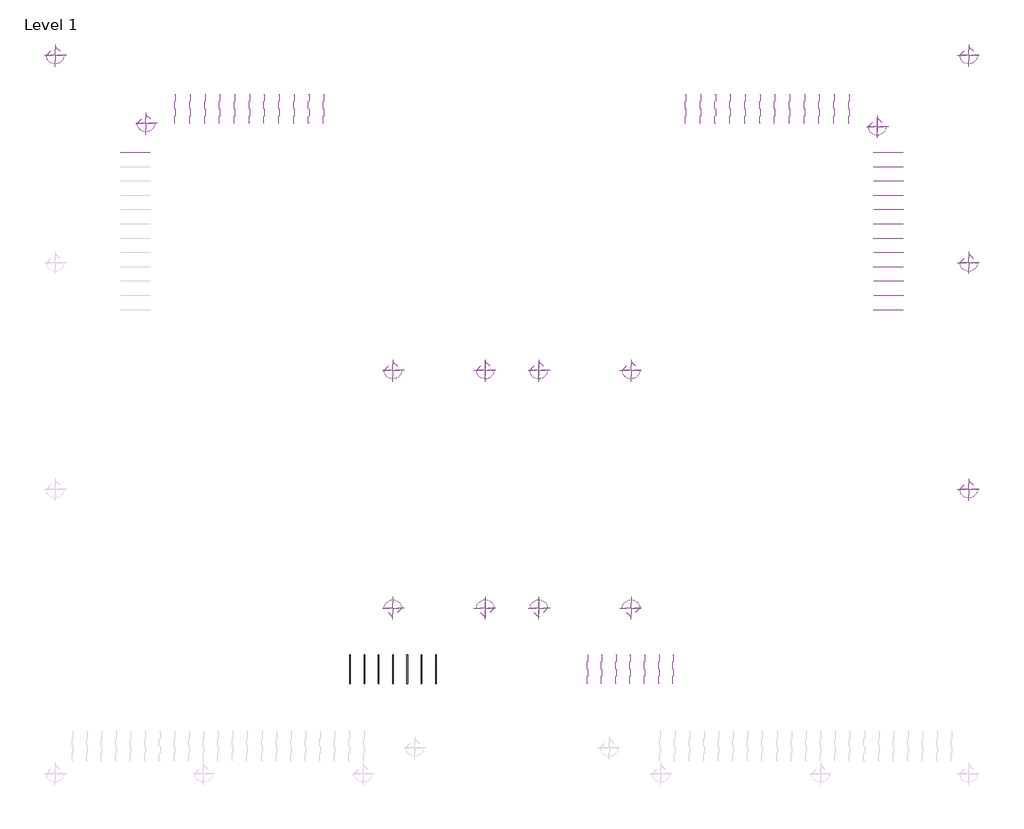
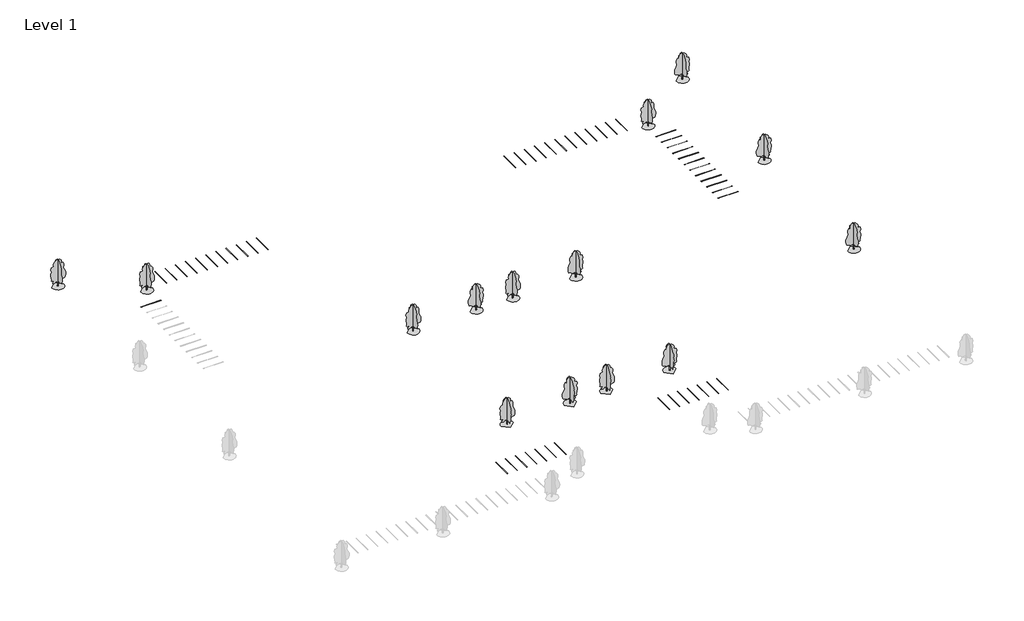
# One storey, part 2 of 2: 50 proxies, 14 geographic elements.
"""IFC4 building model written with IfcOpenShell, lengths in millimetres."""

import ifcopenshell
import ifcopenshell.guid

model = None  # the IFC model being written
_history = None  # IfcOwnerHistory: only IFC2X3 demands one
_inside = {}  # id of a spatial element -> (the spatial element, [elements in it])
_under = {}  # id of a project, library or spatial element -> (it, [spatial elements below it])
_declared = {}  # id of a project -> (the project, [libraries it declares])
_typed = {}  # id of a type object -> (the type object, [elements of that type])
_made_of = {}  # id of a material, layer set ... -> (it, [elements and type objects made of it])


def new_model(schema):
    """Start an empty IFC model of exactly this schema.

    Asked for "IFC4X3", IfcOpenShell would pick the latest addendum, in which some entities
    have other attributes; the version numbers below select the first issue.
    IFC2X3 requires an IfcOwnerHistory on every rooted entity: one is made here for all.
    """
    global model, _history
    if schema == "IFC4X3":
        model = ifcopenshell.file(schema_version=(4, 3, 0, 0))
    else:
        model = ifcopenshell.file(schema=schema)
    _inside.clear()
    _under.clear()
    _declared.clear()
    _typed.clear()
    _made_of.clear()
    _history = None
    if model.schema == "IFC2X3":
        org = make("IfcOrganization", Name="unknown")
        user = make(
            "IfcPersonAndOrganization",
            ThePerson=make("IfcPerson", FamilyName="unknown"),
            TheOrganization=org,
        )
        app = make(
            "IfcApplication",
            ApplicationDeveloper=org,
            Version="unknown",
            ApplicationFullName="unknown",
            ApplicationIdentifier="unknown",
        )
        _history = make(
            "IfcOwnerHistory",
            OwningUser=user,
            OwningApplication=app,
            ChangeAction="ADDED",
            CreationDate=0,
        )
    return model


def make(cls, **values):
    """One entity of the class cls with the attributes given. An attribute that is None is left unset."""
    return model.create_entity(
        cls, **{name: value for name, value in values.items() if value is not None}
    )


def rooted(cls, **values):
    """An entity with a GlobalId (a new one), such as an element, a storey or a relation."""
    return make(cls, GlobalId=ifcopenshell.guid.new(), OwnerHistory=_history, **values)


def si_unit(unit_type, name, prefix=None):
    """IfcSIUnit, for example si_unit("LENGTHUNIT", "METRE", prefix="MILLI")."""
    return make("IfcSIUnit", UnitType=unit_type, Prefix=prefix, Name=name)


def assignment(units):
    """IfcUnitAssignment: the units of a project."""
    return None if units is None else make("IfcUnitAssignment", Units=units)


def point(xyz):
    """IfcCartesianPoint."""
    return None if xyz is None else make("IfcCartesianPoint", Coordinates=xyz)


def direction(xyz):
    """IfcDirection."""
    return None if xyz is None else make("IfcDirection", DirectionRatios=xyz)


def frame(location, z_axis=None, x_axis=None):
    """IfcAxis2Placement3D, a coordinate frame: its origin and axes. An axis left out is left unset."""
    return make(
        "IfcAxis2Placement3D",
        Location=point(location),
        Axis=direction(z_axis),
        RefDirection=direction(x_axis),
    )


def origin():
    """The frame at (0, 0, 0) with its axes left unset."""
    return frame((0.0, 0.0, 0.0))


def origin_with_axes():
    """The frame at (0, 0, 0) with the z axis (0, 0, 1) and the x axis (1, 0, 0) written out."""
    return frame((0.0, 0.0, 0.0), z_axis=(0.0, 0.0, 1.0), x_axis=(1.0, 0.0, 0.0))


def place(relative_to, where):
    """IfcLocalPlacement: puts the frame where relative to a parent placement (None: the world)."""
    return make(
        "IfcLocalPlacement", PlacementRelTo=relative_to, RelativePlacement=where
    )


def context(
    kind, dimensions, precision=None, world=None, true_north=None, identifier=None
):
    """IfcGeometricRepresentationContext, for example the 3D "Model" context."""
    return make(
        "IfcGeometricRepresentationContext",
        ContextIdentifier=identifier,
        ContextType=kind,
        CoordinateSpaceDimension=dimensions,
        Precision=precision,
        WorldCoordinateSystem=world,
        TrueNorth=true_north,
    )


def project(units=None, contexts=None):
    """IfcProject with its units and contexts."""
    return rooted(
        "IfcProject",
        Name="project",
        RepresentationContexts=contexts,
        UnitsInContext=assignment(units),
    )


def spatial(cls, under=None, at=None, **own):
    """A site, building, storey or space (cls), placed at a placement, below another one or the project."""
    s = rooted(cls, ObjectPlacement=at, **own)
    if under is not None:
        _under.setdefault(under.id(), (under, []))[1].append(s)
    return s


def polyline(points):
    """IfcPolyline through the points."""
    return make("IfcPolyline", Points=[point(p) for p in points])


def point_list(points):
    """IfcCartesianPointList2D or 3D."""
    cls = (
        "IfcCartesianPointList2D" if len(points[0]) == 2 else "IfcCartesianPointList3D"
    )
    return make(cls, CoordList=points)


def outline(outer, holes=None, kind="AREA"):
    """IfcArbitraryClosedProfileDef: a profile drawn as a closed curve; with holes, ...WithVoids."""
    if holes is None:
        return make("IfcArbitraryClosedProfileDef", ProfileType=kind, OuterCurve=outer)
    return make(
        "IfcArbitraryProfileDefWithVoids",
        ProfileType=kind,
        OuterCurve=outer,
        InnerCurves=holes,
    )


def extrude(swept, where, along, depth):
    """IfcExtrudedAreaSolid: the profile swept, set in the frame where, extruded along a direction by depth."""
    return make(
        "IfcExtrudedAreaSolid",
        SweptArea=swept,
        Position=where,
        ExtrudedDirection=direction(along),
        Depth=depth,
    )


def triangles(points, corners, closed=None, point_numbers=None):
    """IfcTriangulatedFaceSet: each triangle names its three corners, points numbered from 1."""
    return make(
        "IfcTriangulatedFaceSet",
        Coordinates=point_list(points),
        Closed=closed,
        CoordIndex=corners,
        PnIndex=point_numbers,
    )


def shape(context_of_items, identifier, shape_type, items):
    """IfcShapeRepresentation: the items that make up one representation, for example the "Body"."""
    return make(
        "IfcShapeRepresentation",
        ContextOfItems=context_of_items,
        RepresentationIdentifier=identifier,
        RepresentationType=shape_type,
        Items=items,
    )


def source(mapping_origin, context_of_items, identifier, shape_type, items):
    """IfcRepresentationMap: a shape defined once, which mapped items show again and again."""
    return make(
        "IfcRepresentationMap",
        MappingOrigin=mapping_origin,
        MappedRepresentation=shape(context_of_items, identifier, shape_type, items),
    )


def transform(
    local_origin,
    x_axis=None,
    y_axis=None,
    z_axis=None,
    scale=None,
    scale2=None,
    scale3=None,
    uniform=True,
):
    """IfcCartesianTransformationOperator3D, or its non-uniform kind. x_axis, y_axis, z_axis: its Axis1, 2, 3."""
    if uniform:
        return make(
            "IfcCartesianTransformationOperator3D",
            Axis1=direction(x_axis),
            Axis2=direction(y_axis),
            LocalOrigin=point(local_origin),
            Scale=scale,
            Axis3=direction(z_axis),
        )
    return make(
        "IfcCartesianTransformationOperator3DnonUniform",
        Axis1=direction(x_axis),
        Axis2=direction(y_axis),
        LocalOrigin=point(local_origin),
        Scale=scale,
        Axis3=direction(z_axis),
        Scale2=scale2,
        Scale3=scale3,
    )


def mapped(mapping_source, mapping_target):
    """IfcMappedItem: shows the shape of a source again, moved by a transform."""
    return make(
        "IfcMappedItem", MappingSource=mapping_source, MappingTarget=mapping_target
    )


def made_of(thing, what):
    """Note that an element or type object is made of a material, layer set ...; save() writes the relation."""
    if what is not None:
        _made_of.setdefault(what.id(), (what, []))[1].append(thing)
    return thing


def element(
    cls,
    number,
    at=None,
    inside=None,
    cuts=None,
    type_object=None,
    material=None,
    context=None,
    identifier="Body",
    shape_type=None,
    held_by="IfcProductDefinitionShape",
    body=None,
    shapes=None,
    **own,
):
    """One element of the class cls, such as IfcWall. Its Tag is "e" and its number.

    at: its placement. inside: the storey or other place that contains it. cuts: it is an
    opening in that element (IfcRelVoidsElement). A single representation is given by context,
    identifier, shape_type and body (its items); several are given by shapes. held_by: the class
    of the entity that holds the representations. save() writes the other relations.
    """
    e = rooted(cls, Tag="e%d" % number, ObjectPlacement=at, **own)
    if body is not None:
        shapes = [shape(context, identifier, shape_type, body)]
    if shapes is not None:
        e.Representation = make(held_by, Representations=shapes)
    if inside is not None:
        _inside.setdefault(inside.id(), (inside, []))[1].append(e)
    if cuts is not None:
        rooted(
            "IfcRelVoidsElement", RelatingBuildingElement=cuts, RelatedOpeningElement=e
        )
    if type_object is not None:
        _typed.setdefault(type_object.id(), (type_object, []))[1].append(e)
    return made_of(e, material)


def aggregate(whole, parts):
    """IfcRelAggregates: a whole, such as a stair, and the parts it consists of."""
    return rooted("IfcRelAggregates", RelatingObject=whole, RelatedObjects=parts)


def save(model, path):
    """Write the relations noted so far, then the file.

    IfcRelAggregates (storeys below a building ...), IfcRelContainedInSpatialStructure (elements
    in a storey), IfcRelDefinesByType, IfcRelAssociatesMaterial and IfcRelDeclares: one each for
    every whole, place, type object, material and project.
    """
    for whole, parts in _under.values():
        aggregate(whole, parts)
    for where, things in _inside.values():
        rooted(
            "IfcRelContainedInSpatialStructure",
            RelatedElements=things,
            RelatingStructure=where,
        )
    for kind, things in _typed.values():
        rooted("IfcRelDefinesByType", RelatedObjects=things, RelatingType=kind)
    for what, things in _made_of.values():
        rooted("IfcRelAssociatesMaterial", RelatedObjects=things, RelatingMaterial=what)
    for by, libraries in _declared.values():
        rooted("IfcRelDeclares", RelatingContext=by, RelatedDefinitions=libraries)
    model.write(path)


def parking_space_9_x_18_90_deg_9fe051ab(model_context):
    return source(origin(), model_context, "Body", "SweptSolid", [
        extrude(outline(polyline([(-50.8, 0.0), (-50.8, 5486.4), (50.8, 5486.4), (50.8, 0.0), (-50.8, 0.0)])), origin_with_axes(), (0.0, 0.0, 1.0), 3.175),
    ])


def parking_space_9_x_18_90_deg_b8b21359(model_context):
    return source(origin(), model_context, "Body", "SweptSolid", [
        extrude(outline(polyline([(-50.8, 0.0), (50.8, 0.0), (50.8, -5486.4), (-50.8, -5486.4), (-50.8, 0.0)])), origin_with_axes(), (0.0, 0.0, 1.0), 3.175),
    ])


def rpc_tree_deciduous_red_ash_25_14781bec(model_context):
    return source(origin(), model_context, "Body", "Tessellation", [
        triangles([(-1644.9525009, 0.0, 6.19e-05), (-1601.4651844, -376.9143482, 6.19e-05), (-1477.6144592, -723.0498339, 6.19e-05), (-1283.3164352, -1028.4894024, 6.19e-05), (-1028.4894751, -1283.3165806, 6.19e-05), (-723.0496885, -1477.6140232, 6.19e-05), (-376.9141665, -1601.4651844, 6.19e-05), (7.19e-05, -1644.9525009, 6.19e-05), (376.9143846, -1601.4651844, 6.19e-05), (723.0499065, -1477.6143139, 6.19e-05), (1028.4894751, -1283.3164352, 6.19e-05), (1283.3168713, -1028.4894751, 6.19e-05), (1477.6141685, -723.0496159, 6.19e-05), (1601.4651844, -376.9140939, 6.19e-05), (1644.9525009, 0.0001438, 6.19e-05), (-0.0002157, 1644.9525009, 6.19e-05), (-1.07e-05, -102.8462569, 0.0), (2.5e-05, -101.2467179, 1194.554048), (3.23e-05, -129.8819613, 1537.8029366), (7e-07, -438.8253948, 1558.1655018), (-5.78e-05, -976.3912743, 1478.3068588), (-0.0001405, -1903.692667, 1948.6771305), (-0.0001413, -2011.2060173, 2298.095192), (-0.0001361, -2145.5975235, 2943.1744217), (-0.0001119, -2105.2803623, 3615.1319527), (-5.81e-05, -1740.3819958, 4141.0172951), (-5.5e-06, -1527.3986298, 5160.6350006), (-3.5e-06, -1715.5451397, 5886.3488434), (4.79e-05, -1406.4449661, 6531.4286545), (0.0001569, -626.9743755, 7458.7301926), (0.0001985, -273.2007115, 7618.1942963), (0.0002662, 394.4016166, 7552.8046829), (0.0003121, 1026.0418774, 6880.8468613), (0.0003149, 1214.190204, 6316.4022446), (0.0003323, 1496.411277, 5913.2274353), (0.0003598, 1805.5131947, 5751.9582092), (0.0003531, 1818.9521999, 5483.1746155), (0.0003523, 1899.587249, 5174.0742966), (0.0003275, 1765.1957428, 4811.2170845), (0.0003297, 1886.1480984, 4461.7991684), (0.0003279, 2007.1004539, 3977.9897461), (0.0003211, 1980.222298, 3843.5979492), (0.0002877, 1751.7567375, 3521.0580437), (0.0002729, 1737.3115437, 3077.5662186), (0.0002632, 1724.8782909, 2795.3439102), (0.0002542, 1738.3174416, 2445.9262848), (0.0002412, 1751.7568829, 1962.1167171), (0.0002172, 1563.6084835, 1814.2857697), (0.0001807, 1214.1907127, 1814.2857697), (0.0001827, 1375.4605202, 1317.0371967), (0.0001715, 1348.4951603, 1034.8845062), (0.0001516, 1103.0310734, 1227.8363914), (9.86e-05, 629.4626684, 1106.7075932), (9.8e-05, 551.7118183, 1357.0609165), (6.29e-05, 215.9127657, 1354.0025276), (5.03e-05, 130.8012366, 1228.3346169), (3.27e-05, 79.5493323, 818.2831198), (1.17e-05, 112.1660096, 1.28e-05), (-110.870867, 4.8e-06, 4.46e-05), (-66.7114758, -9.64e-05, 833.5016676), (-129.3072962, -0.000136, 1187.9435503), (-290.7878647, -0.00015, 1365.31768), (-483.6364677, -0.0001408, 1358.6964272), (-796.2678211, -0.000103, 1155.7673166), (-1427.9080456, -6.9e-05, 1102.0108595), (-1419.1706429, -7.35e-05, 1136.7646975), (-1409.8454853, -7.82e-05, 1172.6938271), (-1399.3449635, -8.32e-05, 1210.9736853), (-1387.0813225, -8.87e-05, 1252.7803631), (-1372.4668076, -9.49e-05, 1299.2876987), (-1354.9136639, -0.0001019, 1351.6733093), (-1333.8341366, -0.0001099, 1411.1111057), (-1307.2693336, -0.0001176, 1466.2392815), (-1274.3570984, -0.0001239, 1506.556588), (-1236.1555058, -0.0001289, 1534.5316246), (-1193.7220493, -0.0001329, 1552.6338627), (-1148.1152401, -0.0001362, 1563.3300121), (-1100.3923536, -0.000139, 1569.0895443), (-1051.6116829, -0.0001415, 1572.3809132), (-1199.4421944, -0.0001703, 1868.0423721), (-1629.4953049, -0.0001418, 1787.4073231), (-1871.3997253, -0.0001601, 2029.3124702), (-1723.5690685, -0.0001874, 2204.0214283), (-1763.886375, -0.0002433, 2687.8309959), (-1911.7170319, -0.0003442, 3588.2539421), (-1898.4807758, -0.0003892, 3961.1654823), (-1719.9175472, -0.0004688, 4563.3255295), (-1952.0346291, -0.0005347, 5200.9523071), (-1777.3253803, -0.000616, 5819.1535263), (-1414.4687496, -0.0006447, 5926.6667313), (-1138.413216, -0.0006626, 5975.3625961), (-1239.7599369, -0.0007228, 6517.9893585), (-930.6591093, -0.000802, 7068.9952606), (-352.7753057, -0.0008898, 7593.1219894), (117.5946844, -0.0009135, 7620.0), (534.2087442, -0.0009301, 7606.5601227), (883.626733, -0.0008893, 7136.1905777), (947.8720848, -0.00081, 6447.5180786), (938.6469212, -0.0007795, 6194.9695404), (1286.8011063, -0.0008333, 6517.9893585), (1622.7800171, -0.0007823, 5966.9840378), (1609.3410118, -0.0007196, 5446.5094116), (1549.4574577, -0.00064, 4800.6520317), (1743.7323727, -0.0005809, 4233.3331718), (2131.7640656, -0.0005067, 3469.1978371), (2144.1354034, -0.0004386, 2892.8094727), (2066.2719875, -0.0003531, 2204.021283), (1945.319632, -0.0003141, 1921.7989746), (1703.4147755, -0.0003004, 1894.9206734), (1233.0446491, -0.0002542, 1679.8941181), (816.4305439, -0.0002007, 1384.2328045), (257.4765441, -0.0002049, 1624.5688614), (93.0508701, -0.0001766, 1447.6347485), (104.1552431, -4.6e-06, 3.52e-05)], [[15, 16, 1], [14, 15, 1], [14, 1, 2], [13, 14, 2], [13, 2, 3], [13, 3, 4], [12, 13, 4], [11, 12, 4], [11, 4, 5], [11, 5, 6], [11, 6, 7], [11, 7, 8], [11, 8, 9], [11, 9, 10], [50, 51, 52], [57, 58, 17], [57, 17, 18], [56, 57, 18], [56, 18, 19], [55, 56, 19], [49, 50, 52], [52, 53, 54], [49, 52, 54], [35, 36, 37], [46, 47, 48], [46, 48, 49], [21, 22, 23], [20, 21, 23], [20, 23, 24], [20, 24, 25], [20, 25, 26], [19, 20, 26], [19, 26, 27], [45, 46, 49], [31, 32, 33], [30, 31, 33], [29, 30, 33], [29, 33, 34], [28, 29, 34], [27, 28, 34], [19, 27, 34], [19, 34, 35], [19, 35, 37], [19, 37, 38], [19, 38, 39], [19, 39, 40], [19, 40, 41], [19, 41, 42], [19, 42, 43], [19, 43, 44], [19, 44, 45], [19, 45, 49], [19, 49, 54], [55, 19, 54], [64, 65, 66], [64, 66, 67], [64, 67, 68], [99, 100, 101], [64, 68, 69], [64, 69, 70], [64, 70, 71], [114, 59, 60], [113, 114, 60], [113, 60, 61], [113, 61, 62], [64, 71, 72], [64, 72, 73], [64, 73, 74], [64, 74, 75], [64, 75, 76], [64, 76, 77], [64, 77, 78], [64, 78, 79], [63, 64, 79], [81, 82, 83], [80, 81, 83], [99, 101, 102], [107, 108, 109], [110, 111, 112], [88, 89, 90], [87, 88, 90], [87, 90, 91], [80, 83, 84], [95, 96, 97], [95, 97, 98], [94, 95, 98], [93, 94, 98], [92, 93, 98], [91, 92, 98], [91, 98, 99], [87, 91, 99], [87, 99, 102], [87, 102, 103], [87, 103, 104], [86, 87, 104], [85, 86, 104], [84, 85, 104], [80, 84, 104], [80, 104, 105], [80, 105, 106], [80, 106, 107], [80, 107, 109], [80, 109, 110], [80, 110, 112], [79, 80, 112], [63, 79, 112], [62, 63, 112], [113, 62, 112]], closed=False),
    ])


def rpc_tree_deciduous_red_ash_25_de8497d4(model_context):
    return source(origin(), model_context, "Body", "Tessellation", [
        triangles([(-1644.9525009, 0.0, 6.19e-05), (-1601.4651844, 376.9143482, 6.19e-05), (-1477.6144592, 723.0498339, 6.19e-05), (-1283.3164352, 1028.4894024, 6.19e-05), (-1028.4894751, 1283.3165806, 6.19e-05), (-723.0496885, 1477.6140232, 6.19e-05), (-376.9141665, 1601.4651844, 6.19e-05), (7.19e-05, 1644.9525009, 6.19e-05), (376.9143846, 1601.4651844, 6.19e-05), (723.0499065, 1477.6143139, 6.19e-05), (1028.4894751, 1283.3164352, 6.19e-05), (1283.3168713, 1028.4894751, 6.19e-05), (1477.6141685, 723.0496159, 6.19e-05), (1601.4651844, 376.9140939, 6.19e-05), (1644.9525009, -0.0001438, 6.19e-05), (-0.0002157, -1644.9525009, 6.19e-05), (-1.07e-05, 102.8462569, 0.0), (2.5e-05, 101.2467179, 1194.554048), (3.23e-05, 129.8819613, 1537.8029366), (7e-07, 438.8253948, 1558.1655018), (-5.78e-05, 976.3912743, 1478.3068588), (-0.0001405, 1903.692667, 1948.6771305), (-0.0001413, 2011.2060173, 2298.095192), (-0.0001361, 2145.5975235, 2943.1744217), (-0.0001119, 2105.2803623, 3615.1319527), (-5.81e-05, 1740.3819958, 4141.0172951), (-5.5e-06, 1527.3986298, 5160.6350006), (-3.5e-06, 1715.5451397, 5886.3488434), (4.79e-05, 1406.4449661, 6531.4286545), (0.0001569, 626.9743755, 7458.7301926), (0.0001985, 273.2007115, 7618.1942963), (0.0002662, -394.4016166, 7552.8046829), (0.0003121, -1026.0418774, 6880.8468613), (0.0003149, -1214.190204, 6316.4022446), (0.0003323, -1496.411277, 5913.2274353), (0.0003598, -1805.5131947, 5751.9582092), (0.0003531, -1818.9521999, 5483.1746155), (0.0003523, -1899.587249, 5174.0742966), (0.0003275, -1765.1957428, 4811.2170845), (0.0003297, -1886.1480984, 4461.7991684), (0.0003279, -2007.1004539, 3977.9897461), (0.0003211, -1980.222298, 3843.5979492), (0.0002877, -1751.7567375, 3521.0580437), (0.0002729, -1737.3115437, 3077.5662186), (0.0002632, -1724.8782909, 2795.3439102), (0.0002542, -1738.3174416, 2445.9262848), (0.0002412, -1751.7568829, 1962.1167171), (0.0002172, -1563.6084835, 1814.2857697), (0.0001807, -1214.1907127, 1814.2857697), (0.0001827, -1375.4605202, 1317.0371967), (0.0001715, -1348.4951603, 1034.8845062), (0.0001516, -1103.0310734, 1227.8363914), (9.86e-05, -629.4626684, 1106.7075932), (9.8e-05, -551.7118183, 1357.0609165), (6.29e-05, -215.9127657, 1354.0025276), (5.03e-05, -130.8012366, 1228.3346169), (3.27e-05, -79.5493323, 818.2831198), (1.17e-05, -112.1660096, 1.28e-05), (-110.870867, -4.8e-06, 4.46e-05), (-66.7114758, 9.64e-05, 833.5016676), (-129.3072962, 0.000136, 1187.9435503), (-290.7878647, 0.00015, 1365.31768), (-483.6364677, 0.0001408, 1358.6964272), (-796.2678211, 0.000103, 1155.7673166), (-1427.9080456, 6.9e-05, 1102.0108595), (-1419.1706429, 7.35e-05, 1136.7646975), (-1409.8454853, 7.82e-05, 1172.6938271), (-1399.3449635, 8.32e-05, 1210.9736853), (-1387.0813225, 8.87e-05, 1252.7803631), (-1372.4668076, 9.49e-05, 1299.2876987), (-1354.9136639, 0.0001019, 1351.6733093), (-1333.8341366, 0.0001099, 1411.1111057), (-1307.2693336, 0.0001176, 1466.2392815), (-1274.3570984, 0.0001239, 1506.556588), (-1236.1555058, 0.0001289, 1534.5316246), (-1193.7220493, 0.0001329, 1552.6338627), (-1148.1152401, 0.0001362, 1563.3300121), (-1100.3923536, 0.000139, 1569.0895443), (-1051.6116829, 0.0001415, 1572.3809132), (-1199.4421944, 0.0001703, 1868.0423721), (-1629.4953049, 0.0001418, 1787.4073231), (-1871.3997253, 0.0001601, 2029.3124702), (-1723.5690685, 0.0001874, 2204.0214283), (-1763.886375, 0.0002433, 2687.8309959), (-1911.7170319, 0.0003442, 3588.2539421), (-1898.4807758, 0.0003892, 3961.1654823), (-1719.9175472, 0.0004688, 4563.3255295), (-1952.0346291, 0.0005347, 5200.9523071), (-1777.3253803, 0.000616, 5819.1535263), (-1414.4687496, 0.0006447, 5926.6667313), (-1138.413216, 0.0006626, 5975.3625961), (-1239.7599369, 0.0007228, 6517.9893585), (-930.6591093, 0.000802, 7068.9952606), (-352.7753057, 0.0008898, 7593.1219894), (117.5946844, 0.0009135, 7620.0), (534.2087442, 0.0009301, 7606.5601227), (883.626733, 0.0008893, 7136.1905777), (947.8720848, 0.00081, 6447.5180786), (938.6469212, 0.0007795, 6194.9695404), (1286.8011063, 0.0008333, 6517.9893585), (1622.7800171, 0.0007823, 5966.9840378), (1609.3410118, 0.0007196, 5446.5094116), (1549.4574577, 0.00064, 4800.6520317), (1743.7323727, 0.0005809, 4233.3331718), (2131.7640656, 0.0005067, 3469.1978371), (2144.1354034, 0.0004386, 2892.8094727), (2066.2719875, 0.0003531, 2204.021283), (1945.319632, 0.0003141, 1921.7989746), (1703.4147755, 0.0003004, 1894.9206734), (1233.0446491, 0.0002542, 1679.8941181), (816.4305439, 0.0002007, 1384.2328045), (257.4765441, 0.0002049, 1624.5688614), (93.0508701, 0.0001766, 1447.6347485), (104.1552431, 4.6e-06, 3.52e-05)], [[16, 15, 1], [15, 14, 1], [1, 14, 2], [14, 13, 2], [2, 13, 3], [3, 13, 4], [13, 12, 4], [12, 11, 4], [4, 11, 5], [5, 11, 6], [6, 11, 7], [7, 11, 8], [8, 11, 9], [9, 11, 10], [51, 50, 52], [58, 57, 17], [17, 57, 18], [57, 56, 18], [18, 56, 19], [56, 55, 19], [50, 49, 52], [53, 52, 54], [52, 49, 54], [36, 35, 37], [47, 46, 48], [48, 46, 49], [22, 21, 23], [21, 20, 23], [23, 20, 24], [24, 20, 25], [25, 20, 26], [20, 19, 26], [26, 19, 27], [46, 45, 49], [32, 31, 33], [31, 30, 33], [30, 29, 33], [33, 29, 34], [29, 28, 34], [28, 27, 34], [27, 19, 34], [34, 19, 35], [35, 19, 37], [37, 19, 38], [38, 19, 39], [39, 19, 40], [40, 19, 41], [41, 19, 42], [42, 19, 43], [43, 19, 44], [44, 19, 45], [45, 19, 49], [49, 19, 54], [19, 55, 54], [65, 64, 66], [66, 64, 67], [67, 64, 68], [100, 99, 101], [68, 64, 69], [69, 64, 70], [70, 64, 71], [59, 114, 60], [114, 113, 60], [60, 113, 61], [61, 113, 62], [71, 64, 72], [72, 64, 73], [73, 64, 74], [74, 64, 75], [75, 64, 76], [76, 64, 77], [77, 64, 78], [78, 64, 79], [64, 63, 79], [82, 81, 83], [81, 80, 83], [101, 99, 102], [108, 107, 109], [111, 110, 112], [89, 88, 90], [88, 87, 90], [90, 87, 91], [83, 80, 84], [96, 95, 97], [97, 95, 98], [95, 94, 98], [94, 93, 98], [93, 92, 98], [92, 91, 98], [98, 91, 99], [91, 87, 99], [99, 87, 102], [102, 87, 103], [103, 87, 104], [87, 86, 104], [86, 85, 104], [85, 84, 104], [84, 80, 104], [104, 80, 105], [105, 80, 106], [106, 80, 107], [107, 80, 109], [109, 80, 110], [110, 80, 112], [80, 79, 112], [79, 63, 112], [63, 62, 112], [62, 113, 112]], closed=False),
    ])


model = new_model("IFC4")

# Units and contexts
model_context = context("Model", 3, world=origin())
ifc_project = project(units=[si_unit("LENGTHUNIT", "METRE", prefix="MILLI")], contexts=[model_context])

# Site, building, storey
site = spatial("IfcSite", under=ifc_project)
building = spatial("IfcBuilding", under=site)
storey = spatial("IfcBuildingStorey", under=building, Name="Level 1", Elevation=0.0)

# Proxies
placement = place(None, origin())
parking_space_9_x_18_90_deg_shape = parking_space_9_x_18_90_deg_9fe051ab(model_context)
element("IfcBuildingElementProxy", 1, Name="Parking Space : 9' x 18' - 90 deg", ObjectType="Parking Space : 9' x 18' - 90 deg", at=placement, inside=storey, context=model_context, shape_type="MappedRepresentation", body=[
    mapped(parking_space_9_x_18_90_deg_shape, transform((-26963.9619016, -16596.3218628, 3124.2), x_axis=(-1.0, 0.0, 0.0), y_axis=(0.0, -1.0, 0.0), z_axis=(0.0, 0.0, 1.0))),
])
element("IfcBuildingElementProxy", 2, Name="Parking Space : 9' x 18' - 90 deg", ObjectType="Parking Space : 9' x 18' - 90 deg", at=placement, inside=storey, context=model_context, shape_type="MappedRepresentation", body=[
    mapped(parking_space_9_x_18_90_deg_shape, transform((-29757.9619016, -16596.3218628, 3124.2), x_axis=(-1.0, 0.0, 0.0), y_axis=(0.0, -1.0, 0.0), z_axis=(0.0, 0.0, 1.0))),
])
element("IfcBuildingElementProxy", 3, Name="Parking Space : 9' x 18' - 90 deg", ObjectType="Parking Space : 9' x 18' - 90 deg", at=placement, inside=storey, context=model_context, shape_type="MappedRepresentation", body=[
    mapped(parking_space_9_x_18_90_deg_shape, transform((-32551.9619016, -16596.3218628, 3124.2), x_axis=(-1.0, 0.0, 0.0), y_axis=(0.0, -1.0, 0.0), z_axis=(0.0, 0.0, 1.0))),
])
element("IfcBuildingElementProxy", 4, Name="Parking Space : 9' x 18' - 90 deg", ObjectType="Parking Space : 9' x 18' - 90 deg", at=placement, inside=storey, context=model_context, shape_type="MappedRepresentation", body=[
    mapped(parking_space_9_x_18_90_deg_shape, transform((-35345.9619016, -16596.3218628, 3124.2), x_axis=(-1.0, 0.0, 0.0), y_axis=(0.0, -1.0, 0.0), z_axis=(0.0, 0.0, 1.0))),
])
element("IfcBuildingElementProxy", 5, Name="Parking Space : 9' x 18' - 90 deg", ObjectType="Parking Space : 9' x 18' - 90 deg", at=placement, inside=storey, context=model_context, shape_type="MappedRepresentation", body=[
    mapped(parking_space_9_x_18_90_deg_shape, transform((-38139.9619016, -16596.3218628, 3124.2), x_axis=(-1.0, 0.0, 0.0), y_axis=(0.0, -1.0, 0.0), z_axis=(0.0, 0.0, 1.0))),
])
element("IfcBuildingElementProxy", 6, Name="Parking Space : 9' x 18' - 90 deg", ObjectType="Parking Space : 9' x 18' - 90 deg", at=placement, inside=storey, context=model_context, shape_type="MappedRepresentation", body=[
    mapped(parking_space_9_x_18_90_deg_shape, transform((-40933.9619016, -16596.3218628, 3124.2), x_axis=(-1.0, 0.0, 0.0), y_axis=(0.0, -1.0, 0.0), z_axis=(0.0, 0.0, 1.0))),
])
element("IfcBuildingElementProxy", 7, Name="Parking Space : 9' x 18' - 90 deg", ObjectType="Parking Space : 9' x 18' - 90 deg", at=placement, inside=storey, context=model_context, shape_type="MappedRepresentation", body=[
    mapped(parking_space_9_x_18_90_deg_shape, transform((-43727.9619016, -16596.3218628, 3124.2), x_axis=(-1.0, 0.0, 0.0), y_axis=(0.0, -1.0, 0.0), z_axis=(0.0, 0.0, 1.0))),
])
element("IfcBuildingElementProxy", 8, Name="Parking Space : 9' x 18' - 90 deg", ObjectType="Parking Space : 9' x 18' - 90 deg", at=placement, inside=storey, context=model_context, shape_type="MappedRepresentation", body=[
    mapped(parking_space_9_x_18_90_deg_shape, transform((-46521.9619016, -16596.3218628, 3124.2), x_axis=(-1.0, 0.0, 0.0), y_axis=(0.0, -1.0, 0.0), z_axis=(0.0, 0.0, 1.0))),
])
element("IfcBuildingElementProxy", 9, Name="Parking Space : 9' x 18' - 90 deg", ObjectType="Parking Space : 9' x 18' - 90 deg", at=placement, inside=storey, context=model_context, shape_type="MappedRepresentation", body=[
    mapped(parking_space_9_x_18_90_deg_shape, transform((-49315.9619016, -16596.3218628, 3124.2), x_axis=(-1.0, 0.0, 0.0), y_axis=(0.0, -1.0, 0.0), z_axis=(0.0, 0.0, 1.0))),
])
element("IfcBuildingElementProxy", 10, Name="Parking Space : 9' x 18' - 90 deg", ObjectType="Parking Space : 9' x 18' - 90 deg", at=placement, inside=storey, context=model_context, shape_type="MappedRepresentation", body=[
    mapped(parking_space_9_x_18_90_deg_shape, transform((-52109.9619016, -16596.3218628, 3124.2), x_axis=(-1.0, 0.0, 0.0), y_axis=(0.0, -1.0, 0.0), z_axis=(0.0, 0.0, 1.0))),
])
element("IfcBuildingElementProxy", 11, Name="Parking Space : 9' x 18' - 90 deg", ObjectType="Parking Space : 9' x 18' - 90 deg", at=placement, inside=storey, context=model_context, shape_type="MappedRepresentation", body=[
    mapped(parking_space_9_x_18_90_deg_shape, transform((-54903.9619016, -16596.3218628, 3124.2), x_axis=(-1.0, 0.0, 0.0), y_axis=(0.0, -1.0, 0.0), z_axis=(0.0, 0.0, 1.0))),
])
element("IfcBuildingElementProxy", 12, Name="Parking Space : 9' x 18' - 90 deg", ObjectType="Parking Space : 9' x 18' - 90 deg", at=placement, inside=storey, context=model_context, shape_type="MappedRepresentation", body=[
    mapped(parking_space_9_x_18_90_deg_shape, transform((-57697.9619016, -16596.3218628, 3124.2), x_axis=(-1.0, 0.0, 0.0), y_axis=(0.0, -1.0, 0.0), z_axis=(0.0, 0.0, 1.0))),
])
element("IfcBuildingElementProxy", 13, Name="Parking Space : 9' x 18' - 90 deg", ObjectType="Parking Space : 9' x 18' - 90 deg", at=placement, inside=storey, context=model_context, shape_type="MappedRepresentation", body=[
    mapped(parking_space_9_x_18_90_deg_shape, transform((-60034.7619016, -122057.1265137, 3124.2), x_axis=(-1.0, 0.0, 0.0), y_axis=(0.0, -1.0, 0.0), z_axis=(0.0, 0.0, 1.0))),
])
element("IfcBuildingElementProxy", 14, Name="Parking Space : 9' x 18' - 90 deg", ObjectType="Parking Space : 9' x 18' - 90 deg", at=placement, inside=storey, context=model_context, shape_type="MappedRepresentation", body=[
    mapped(parking_space_9_x_18_90_deg_shape, transform((-62727.1619016, -122057.1265137, 3124.2), x_axis=(-1.0, 0.0, 0.0), y_axis=(0.0, -1.0, 0.0), z_axis=(0.0, 0.0, 1.0))),
])
element("IfcBuildingElementProxy", 15, Name="Parking Space : 9' x 18' - 90 deg", ObjectType="Parking Space : 9' x 18' - 90 deg", at=placement, inside=storey, context=model_context, shape_type="MappedRepresentation", body=[
    mapped(parking_space_9_x_18_90_deg_shape, transform((-65419.5619016, -122057.1265137, 3124.2), x_axis=(-1.0, 0.0, 0.0), y_axis=(0.0, -1.0, 0.0), z_axis=(0.0, 0.0, 1.0))),
])
element("IfcBuildingElementProxy", 16, Name="Parking Space : 9' x 18' - 90 deg", ObjectType="Parking Space : 9' x 18' - 90 deg", at=placement, inside=storey, context=model_context, shape_type="MappedRepresentation", body=[
    mapped(parking_space_9_x_18_90_deg_shape, transform((-68111.9619016, -122057.1265137, 3124.2), x_axis=(-1.0, 0.0, 0.0), y_axis=(0.0, -1.0, 0.0), z_axis=(0.0, 0.0, 1.0))),
])
element("IfcBuildingElementProxy", 17, Name="Parking Space : 9' x 18' - 90 deg", ObjectType="Parking Space : 9' x 18' - 90 deg", at=placement, inside=storey, context=model_context, shape_type="MappedRepresentation", body=[
    mapped(parking_space_9_x_18_90_deg_shape, transform((-70804.3619016, -122057.1265137, 3124.2), x_axis=(-1.0, 0.0, 0.0), y_axis=(0.0, -1.0, 0.0), z_axis=(0.0, 0.0, 1.0))),
])
element("IfcBuildingElementProxy", 18, Name="Parking Space : 9' x 18' - 90 deg", ObjectType="Parking Space : 9' x 18' - 90 deg", at=placement, inside=storey, context=model_context, shape_type="MappedRepresentation", body=[
    mapped(parking_space_9_x_18_90_deg_shape, transform((-73496.7619016, -122057.1265137, 3124.2), x_axis=(-1.0, 0.0, 0.0), y_axis=(0.0, -1.0, 0.0), z_axis=(0.0, 0.0, 1.0))),
])
element("IfcBuildingElementProxy", 19, Name="Parking Space : 9' x 18' - 90 deg", ObjectType="Parking Space : 9' x 18' - 90 deg", at=placement, inside=storey, context=model_context, shape_type="MappedRepresentation", body=[
    mapped(parking_space_9_x_18_90_deg_shape, transform((-76189.1619016, -122057.1265137, 3124.2), x_axis=(-1.0, 0.0, 0.0), y_axis=(0.0, -1.0, 0.0), z_axis=(0.0, 0.0, 1.0))),
])
element("IfcBuildingElementProxy", 20, Name="Parking Space : 9' x 18' - 90 deg", ObjectType="Parking Space : 9' x 18' - 90 deg", at=placement, inside=storey, context=model_context, shape_type="MappedRepresentation", body=[
    mapped(parking_space_9_x_18_90_deg_shape, transform((-163971.5541504, -27569.1218628, 3124.2), x_axis=(0.0, -1.0, 0.0), y_axis=(1.0, 0.0, 0.0), z_axis=(0.0, 0.0, 1.0))),
])
parking_space_9_x_18_90_deg_2_shape = parking_space_9_x_18_90_deg_b8b21359(model_context)
element("IfcBuildingElementProxy", 21, Name="Parking Space : 9' x 18' - 90 deg", ObjectType="Parking Space : 9' x 18' - 90 deg", at=placement, inside=storey, context=model_context, shape_type="MappedRepresentation", body=[
    mapped(parking_space_9_x_18_90_deg_2_shape, transform((-153760.7541504, -16596.3218628, 3200.4), x_axis=(1.0, 0.0, 0.0), y_axis=(0.0, 1.0, 0.0), z_axis=(0.0, 0.0, 1.0))),
])
element("IfcBuildingElementProxy", 22, Name="Parking Space : 9' x 18' - 90 deg", ObjectType="Parking Space : 9' x 18' - 90 deg", at=placement, inside=storey, context=model_context, shape_type="MappedRepresentation", body=[
    mapped(parking_space_9_x_18_90_deg_2_shape, transform((-150966.7541504, -16596.3218628, 3124.2), x_axis=(1.0, 0.0, 0.0), y_axis=(0.0, 1.0, 0.0), z_axis=(0.0, 0.0, 1.0))),
])
element("IfcBuildingElementProxy", 23, Name="Parking Space : 9' x 18' - 90 deg", ObjectType="Parking Space : 9' x 18' - 90 deg", at=placement, inside=storey, context=model_context, shape_type="MappedRepresentation", body=[
    mapped(parking_space_9_x_18_90_deg_2_shape, transform((-148172.7541504, -16596.3218628, 3124.2), x_axis=(1.0, 0.0, 0.0), y_axis=(0.0, 1.0, 0.0), z_axis=(0.0, 0.0, 1.0))),
])
element("IfcBuildingElementProxy", 24, Name="Parking Space : 9' x 18' - 90 deg", ObjectType="Parking Space : 9' x 18' - 90 deg", at=placement, inside=storey, context=model_context, shape_type="MappedRepresentation", body=[
    mapped(parking_space_9_x_18_90_deg_2_shape, transform((-145378.7541504, -16596.3218628, 3124.2), x_axis=(1.0, 0.0, 0.0), y_axis=(0.0, 1.0, 0.0), z_axis=(0.0, 0.0, 1.0))),
])
element("IfcBuildingElementProxy", 25, Name="Parking Space : 9' x 18' - 90 deg", ObjectType="Parking Space : 9' x 18' - 90 deg", at=placement, inside=storey, context=model_context, shape_type="MappedRepresentation", body=[
    mapped(parking_space_9_x_18_90_deg_2_shape, transform((-142584.7541504, -16596.3218628, 3124.2), x_axis=(1.0, 0.0, 0.0), y_axis=(0.0, 1.0, 0.0), z_axis=(0.0, 0.0, 1.0))),
])
element("IfcBuildingElementProxy", 26, Name="Parking Space : 9' x 18' - 90 deg", ObjectType="Parking Space : 9' x 18' - 90 deg", at=placement, inside=storey, context=model_context, shape_type="MappedRepresentation", body=[
    mapped(parking_space_9_x_18_90_deg_2_shape, transform((-139790.7541504, -16596.3218628, 3124.2), x_axis=(1.0, 0.0, 0.0), y_axis=(0.0, 1.0, 0.0), z_axis=(0.0, 0.0, 1.0))),
])
element("IfcBuildingElementProxy", 27, Name="Parking Space : 9' x 18' - 90 deg", ObjectType="Parking Space : 9' x 18' - 90 deg", at=placement, inside=storey, context=model_context, shape_type="MappedRepresentation", body=[
    mapped(parking_space_9_x_18_90_deg_2_shape, transform((-136996.7541504, -16596.3218628, 3124.2), x_axis=(1.0, 0.0, 0.0), y_axis=(0.0, 1.0, 0.0), z_axis=(0.0, 0.0, 1.0))),
])
element("IfcBuildingElementProxy", 28, Name="Parking Space : 9' x 18' - 90 deg", ObjectType="Parking Space : 9' x 18' - 90 deg", at=placement, inside=storey, context=model_context, shape_type="MappedRepresentation", body=[
    mapped(parking_space_9_x_18_90_deg_2_shape, transform((-134202.7541504, -16596.3218628, 3124.2), x_axis=(1.0, 0.0, 0.0), y_axis=(0.0, 1.0, 0.0), z_axis=(0.0, 0.0, 1.0))),
])
element("IfcBuildingElementProxy", 29, Name="Parking Space : 9' x 18' - 90 deg", ObjectType="Parking Space : 9' x 18' - 90 deg", at=placement, inside=storey, context=model_context, shape_type="MappedRepresentation", body=[
    mapped(parking_space_9_x_18_90_deg_2_shape, transform((-131408.7541504, -16596.3218628, 3124.2), x_axis=(1.0, 0.0, 0.0), y_axis=(0.0, 1.0, 0.0), z_axis=(0.0, 0.0, 1.0))),
])
element("IfcBuildingElementProxy", 30, Name="Parking Space : 9' x 18' - 90 deg", ObjectType="Parking Space : 9' x 18' - 90 deg", at=placement, inside=storey, context=model_context, shape_type="MappedRepresentation", body=[
    mapped(parking_space_9_x_18_90_deg_2_shape, transform((-128614.7541504, -16596.3218628, 3124.2), x_axis=(1.0, 0.0, 0.0), y_axis=(0.0, 1.0, 0.0), z_axis=(0.0, 0.0, 1.0))),
])
element("IfcBuildingElementProxy", 31, Name="Parking Space : 9' x 18' - 90 deg", ObjectType="Parking Space : 9' x 18' - 90 deg", at=placement, inside=storey, context=model_context, shape_type="MappedRepresentation", body=[
    mapped(parking_space_9_x_18_90_deg_2_shape, transform((-125820.7541504, -16596.3218628, 3124.2), x_axis=(1.0, 0.0, 0.0), y_axis=(0.0, 1.0, 0.0), z_axis=(0.0, 0.0, 1.0))),
])
element("IfcBuildingElementProxy", 32, Name="Parking Space : 9' x 18' - 90 deg", ObjectType="Parking Space : 9' x 18' - 90 deg", at=placement, inside=storey, context=model_context, shape_type="MappedRepresentation", body=[
    mapped(parking_space_9_x_18_90_deg_2_shape, transform((-16753.1619016, -27569.1218628, 3124.2), x_axis=(0.0, -1.0, 0.0), y_axis=(1.0, 0.0, 0.0), z_axis=(0.0, 0.0, 1.0))),
])
element("IfcBuildingElementProxy", 33, Name="Parking Space : 9' x 18' - 90 deg", ObjectType="Parking Space : 9' x 18' - 90 deg", at=placement, inside=storey, context=model_context, shape_type="MappedRepresentation", body=[
    mapped(parking_space_9_x_18_90_deg_2_shape, transform((-16753.1619016, -30261.5218628, 3124.2), x_axis=(0.0, -1.0, 0.0), y_axis=(1.0, 0.0, 0.0), z_axis=(0.0, 0.0, 1.0))),
])
element("IfcBuildingElementProxy", 34, Name="Parking Space : 9' x 18' - 90 deg", ObjectType="Parking Space : 9' x 18' - 90 deg", at=placement, inside=storey, context=model_context, shape_type="MappedRepresentation", body=[
    mapped(parking_space_9_x_18_90_deg_2_shape, transform((-16753.1619016, -32953.9218628, 3124.2), x_axis=(0.0, -1.0, 0.0), y_axis=(1.0, 0.0, 0.0), z_axis=(0.0, 0.0, 1.0))),
])
element("IfcBuildingElementProxy", 35, Name="Parking Space : 9' x 18' - 90 deg", ObjectType="Parking Space : 9' x 18' - 90 deg", at=placement, inside=storey, context=model_context, shape_type="MappedRepresentation", body=[
    mapped(parking_space_9_x_18_90_deg_2_shape, transform((-16753.1619016, -35646.3218628, 3124.2), x_axis=(0.0, -1.0, 0.0), y_axis=(1.0, 0.0, 0.0), z_axis=(0.0, 0.0, 1.0))),
])
element("IfcBuildingElementProxy", 36, Name="Parking Space : 9' x 18' - 90 deg", ObjectType="Parking Space : 9' x 18' - 90 deg", at=placement, inside=storey, context=model_context, shape_type="MappedRepresentation", body=[
    mapped(parking_space_9_x_18_90_deg_2_shape, transform((-16753.1619016, -38338.7218628, 3124.2), x_axis=(0.0, -1.0, 0.0), y_axis=(1.0, 0.0, 0.0), z_axis=(0.0, 0.0, 1.0))),
])
element("IfcBuildingElementProxy", 37, Name="Parking Space : 9' x 18' - 90 deg", ObjectType="Parking Space : 9' x 18' - 90 deg", at=placement, inside=storey, context=model_context, shape_type="MappedRepresentation", body=[
    mapped(parking_space_9_x_18_90_deg_2_shape, transform((-16753.1619016, -41031.1218628, 3124.2), x_axis=(0.0, -1.0, 0.0), y_axis=(1.0, 0.0, 0.0), z_axis=(0.0, 0.0, 1.0))),
])
element("IfcBuildingElementProxy", 38, Name="Parking Space : 9' x 18' - 90 deg", ObjectType="Parking Space : 9' x 18' - 90 deg", at=placement, inside=storey, context=model_context, shape_type="MappedRepresentation", body=[
    mapped(parking_space_9_x_18_90_deg_2_shape, transform((-16753.1619016, -43723.5218628, 3124.2), x_axis=(0.0, -1.0, 0.0), y_axis=(1.0, 0.0, 0.0), z_axis=(0.0, 0.0, 1.0))),
])
element("IfcBuildingElementProxy", 39, Name="Parking Space : 9' x 18' - 90 deg", ObjectType="Parking Space : 9' x 18' - 90 deg", at=placement, inside=storey, context=model_context, shape_type="MappedRepresentation", body=[
    mapped(parking_space_9_x_18_90_deg_2_shape, transform((-16753.1619016, -46415.9218628, 3124.2), x_axis=(0.0, -1.0, 0.0), y_axis=(1.0, 0.0, 0.0), z_axis=(0.0, 0.0, 1.0))),
])
element("IfcBuildingElementProxy", 40, Name="Parking Space : 9' x 18' - 90 deg", ObjectType="Parking Space : 9' x 18' - 90 deg", at=placement, inside=storey, context=model_context, shape_type="MappedRepresentation", body=[
    mapped(parking_space_9_x_18_90_deg_2_shape, transform((-16753.1619016, -49108.3218628, 3124.2), x_axis=(0.0, -1.0, 0.0), y_axis=(1.0, 0.0, 0.0), z_axis=(0.0, 0.0, 1.0))),
])
element("IfcBuildingElementProxy", 41, Name="Parking Space : 9' x 18' - 90 deg", ObjectType="Parking Space : 9' x 18' - 90 deg", at=placement, inside=storey, context=model_context, shape_type="MappedRepresentation", body=[
    mapped(parking_space_9_x_18_90_deg_2_shape, transform((-16753.1619016, -51800.7218628, 3124.2), x_axis=(0.0, -1.0, 0.0), y_axis=(1.0, 0.0, 0.0), z_axis=(0.0, 0.0, 1.0))),
])
element("IfcBuildingElementProxy", 42, Name="Parking Space : 9' x 18' - 90 deg", ObjectType="Parking Space : 9' x 18' - 90 deg", at=placement, inside=storey, context=model_context, shape_type="MappedRepresentation", body=[
    mapped(parking_space_9_x_18_90_deg_2_shape, transform((-16753.1619016, -54493.1218628, 3124.2), x_axis=(0.0, -1.0, 0.0), y_axis=(1.0, 0.0, 0.0), z_axis=(0.0, 0.0, 1.0))),
])
element("IfcBuildingElementProxy", 43, Name="Parking Space : 9' x 18' - 90 deg", ObjectType="Parking Space : 9' x 18' - 90 deg", at=placement, inside=storey, context=model_context, shape_type="MappedRepresentation", body=[
    mapped(parking_space_9_x_18_90_deg_2_shape, transform((-16753.1619016, -57185.5218628, 3124.2), x_axis=(0.0, -1.0, 0.0), y_axis=(1.0, 0.0, 0.0), z_axis=(0.0, 0.0, 1.0))),
])
element("IfcBuildingElementProxy", 44, Name="Parking Space : 9' x 18' - 90 deg", ObjectType="Parking Space : 9' x 18' - 90 deg", at=placement, inside=storey, context=model_context, shape_type="MappedRepresentation", body=[
    mapped(parking_space_9_x_18_90_deg_2_shape, transform((-104687.9541504, -122057.1265137, 76.2), x_axis=(1.0, 0.0, 0.0), y_axis=(0.0, 1.0, 0.0), z_axis=(0.0, 0.0, 1.0))),
])
element("IfcBuildingElementProxy", 45, Name="Parking Space : 9' x 18' - 90 deg", ObjectType="Parking Space : 9' x 18' - 90 deg", at=placement, inside=storey, context=model_context, shape_type="MappedRepresentation", body=[
    mapped(parking_space_9_x_18_90_deg_2_shape, transform((-107380.3541504, -122057.1265137, 76.2), x_axis=(1.0, 0.0, 0.0), y_axis=(0.0, 1.0, 0.0), z_axis=(0.0, 0.0, 1.0))),
])
element("IfcBuildingElementProxy", 46, Name="Parking Space : 9' x 18' - 90 deg", ObjectType="Parking Space : 9' x 18' - 90 deg", at=placement, inside=storey, context=model_context, shape_type="MappedRepresentation", body=[
    mapped(parking_space_9_x_18_90_deg_2_shape, transform((-110072.7541504, -122057.1265137, 76.2), x_axis=(1.0, 0.0, 0.0), y_axis=(0.0, 1.0, 0.0), z_axis=(0.0, 0.0, 1.0))),
])
element("IfcBuildingElementProxy", 47, Name="Parking Space : 9' x 18' - 90 deg", ObjectType="Parking Space : 9' x 18' - 90 deg", at=placement, inside=storey, context=model_context, shape_type="MappedRepresentation", body=[
    mapped(parking_space_9_x_18_90_deg_2_shape, transform((-112765.1541504, -122057.1265137, 76.2), x_axis=(1.0, 0.0, 0.0), y_axis=(0.0, 1.0, 0.0), z_axis=(0.0, 0.0, 1.0))),
])
element("IfcBuildingElementProxy", 48, Name="Parking Space : 9' x 18' - 90 deg", ObjectType="Parking Space : 9' x 18' - 90 deg", at=placement, inside=storey, context=model_context, shape_type="MappedRepresentation", body=[
    mapped(parking_space_9_x_18_90_deg_2_shape, transform((-115457.5541504, -122057.1265137, 76.2), x_axis=(1.0, 0.0, 0.0), y_axis=(0.0, 1.0, 0.0), z_axis=(0.0, 0.0, 1.0))),
])
element("IfcBuildingElementProxy", 49, Name="Parking Space : 9' x 18' - 90 deg", ObjectType="Parking Space : 9' x 18' - 90 deg", at=placement, inside=storey, context=model_context, shape_type="MappedRepresentation", body=[
    mapped(parking_space_9_x_18_90_deg_2_shape, transform((-118149.9541504, -122057.1265137, 76.2), x_axis=(1.0, 0.0, 0.0), y_axis=(0.0, 1.0, 0.0), z_axis=(0.0, 0.0, 1.0))),
])
element("IfcBuildingElementProxy", 50, Name="Parking Space : 9' x 18' - 90 deg", ObjectType="Parking Space : 9' x 18' - 90 deg", at=placement, inside=storey, context=model_context, shape_type="MappedRepresentation", body=[
    mapped(parking_space_9_x_18_90_deg_2_shape, transform((-120842.3541504, -122057.1265137, 76.2), x_axis=(1.0, 0.0, 0.0), y_axis=(0.0, 1.0, 0.0), z_axis=(0.0, 0.0, 1.0))),
])

# Geographic elements
rpc_tree_deciduous_red_ash_25_shape = rpc_tree_deciduous_red_ash_25_14781bec(model_context)
element("IfcGeographicElement", 51, ObjectType="RPC Tree - Deciduous : Red Ash - 25'", at=placement, inside=storey, context=model_context, shape_type="MappedRepresentation", body=[
    mapped(rpc_tree_deciduous_red_ash_25_shape, transform((-176315.958026, -9281.1218987, 2486.5258864), x_axis=(1.0, 0.0, 0.0), y_axis=(0.0, 1.0, 0.0), z_axis=(0.0, 0.0, 1.0))),
])
element("IfcGeographicElement", 52, ObjectType="RPC Tree - Deciduous : Red Ash - 25'", at=placement, inside=storey, context=model_context, shape_type="MappedRepresentation", body=[
    mapped(rpc_tree_deciduous_red_ash_25_shape, transform((-159247.158026, -22082.7218628, 3048.0), x_axis=(1.0, 0.0, 0.0), y_axis=(0.0, 1.0, 0.0), z_axis=(0.0, 0.0, 1.0))),
])
element("IfcGeographicElement", 53, ObjectType="RPC Tree - Deciduous : Red Ash - 25'", at=placement, inside=storey, context=model_context, shape_type="MappedRepresentation", body=[
    mapped(rpc_tree_deciduous_red_ash_25_shape, transform((-21629.9576385, -22692.3218628, 3048.0), x_axis=(1.0, 0.0, 0.0), y_axis=(0.0, 1.0, 0.0), z_axis=(0.0, 0.0, 1.0))),
])
element("IfcGeographicElement", 54, ObjectType="RPC Tree - Deciduous : Red Ash - 25'", at=placement, inside=storey, context=model_context, shape_type="MappedRepresentation", body=[
    mapped(rpc_tree_deciduous_red_ash_25_shape, transform((-112765.158026, -68564.7218987, 3048.0), x_axis=(1.0, 0.0, 0.0), y_axis=(0.0, 1.0, 0.0), z_axis=(0.0, 0.0, 1.0))),
])
element("IfcGeographicElement", 55, ObjectType="RPC Tree - Deciduous : Red Ash - 25'", at=placement, inside=storey, context=model_context, shape_type="MappedRepresentation", body=[
    mapped(rpc_tree_deciduous_red_ash_25_shape, transform((-85333.1657773, -68564.7218987, 3048.0), x_axis=(1.0, 0.0, 0.0), y_axis=(0.0, 1.0, 0.0), z_axis=(0.0, 0.0, 1.0))),
])
element("IfcGeographicElement", 56, ObjectType="RPC Tree - Deciduous : Red Ash - 25'", at=placement, inside=storey, context=model_context, shape_type="MappedRepresentation", body=[
    mapped(rpc_tree_deciduous_red_ash_25_shape, transform((-95391.5502748, -113370.3218987, 3048.0), x_axis=(-1.0, 0.0, 0.0), y_axis=(0.0, -1.0, 0.0), z_axis=(0.0, 0.0, 1.0))),
])
element("IfcGeographicElement", 57, ObjectType="RPC Tree - Deciduous : Red Ash - 25'", at=placement, inside=storey, context=model_context, shape_type="MappedRepresentation", body=[
    mapped(rpc_tree_deciduous_red_ash_25_shape, transform((-67959.558026, -113370.3218987, 3048.0), x_axis=(-1.0, 0.0, 0.0), y_axis=(0.0, -1.0, 0.0), z_axis=(0.0, 0.0, 1.0))),
])
rpc_tree_deciduous_red_ash_25_2_shape = rpc_tree_deciduous_red_ash_25_de8497d4(model_context)
element("IfcGeographicElement", 58, ObjectType="RPC Tree - Deciduous : Red Ash - 25'", at=placement, inside=storey, context=model_context, shape_type="MappedRepresentation", body=[
    mapped(rpc_tree_deciduous_red_ash_25_2_shape, transform((-4408.758026, -90967.5218987, 2486.5258864), x_axis=(-1.0, 0.0, 0.0), y_axis=(0.0, -1.0, 0.0), z_axis=(0.0, 0.0, 1.0))),
])
element("IfcGeographicElement", 59, ObjectType="RPC Tree - Deciduous : Red Ash - 25'", at=placement, inside=storey, context=model_context, shape_type="MappedRepresentation", body=[
    mapped(rpc_tree_deciduous_red_ash_25_2_shape, transform((-4408.758026, -48295.5218987, 2486.5258864), x_axis=(-1.0, 0.0, 0.0), y_axis=(0.0, -1.0, 0.0), z_axis=(0.0, 0.0, 1.0))),
])
element("IfcGeographicElement", 60, ObjectType="RPC Tree - Deciduous : Red Ash - 25'", at=placement, inside=storey, context=model_context, shape_type="MappedRepresentation", body=[
    mapped(rpc_tree_deciduous_red_ash_25_2_shape, transform((-4408.758026, -9281.1218987, 2486.5258864), x_axis=(-1.0, 0.0, 0.0), y_axis=(0.0, -1.0, 0.0), z_axis=(0.0, 0.0, 1.0))),
])
element("IfcGeographicElement", 61, ObjectType="RPC Tree - Deciduous : Red Ash - 25'", at=placement, inside=storey, context=model_context, shape_type="MappedRepresentation", body=[
    mapped(rpc_tree_deciduous_red_ash_25_2_shape, transform((-95391.5502748, -68564.7218987, 3048.0), x_axis=(-1.0, 0.0, 0.0), y_axis=(0.0, -1.0, 0.0), z_axis=(0.0, 0.0, 1.0))),
])
element("IfcGeographicElement", 62, ObjectType="RPC Tree - Deciduous : Red Ash - 25'", at=placement, inside=storey, context=model_context, shape_type="MappedRepresentation", body=[
    mapped(rpc_tree_deciduous_red_ash_25_2_shape, transform((-67959.558026, -68564.7218987, 3048.0), x_axis=(-1.0, 0.0, 0.0), y_axis=(0.0, -1.0, 0.0), z_axis=(0.0, 0.0, 1.0))),
])
element("IfcGeographicElement", 63, ObjectType="RPC Tree - Deciduous : Red Ash - 25'", at=placement, inside=storey, context=model_context, shape_type="MappedRepresentation", body=[
    mapped(rpc_tree_deciduous_red_ash_25_2_shape, transform((-112765.158026, -113370.3218987, 3048.0), x_axis=(1.0, 0.0, 0.0), y_axis=(0.0, 1.0, 0.0), z_axis=(0.0, 0.0, 1.0))),
])
element("IfcGeographicElement", 64, ObjectType="RPC Tree - Deciduous : Red Ash - 25'", at=placement, inside=storey, context=model_context, shape_type="MappedRepresentation", body=[
    mapped(rpc_tree_deciduous_red_ash_25_2_shape, transform((-85333.1657773, -113370.3218987, 3048.0), x_axis=(1.0, 0.0, 0.0), y_axis=(0.0, 1.0, 0.0), z_axis=(0.0, 0.0, 1.0))),
])

save(model, "model.ifc")
